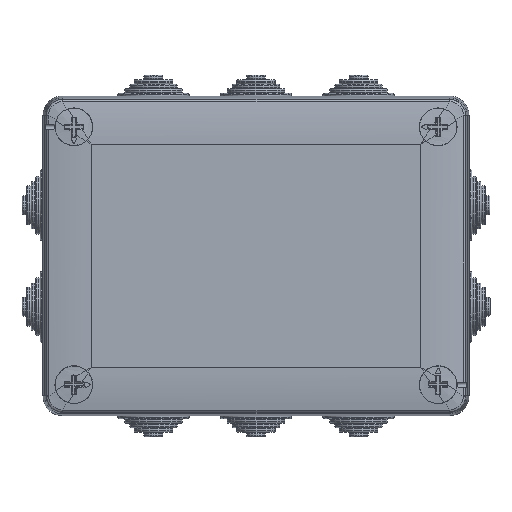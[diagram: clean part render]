
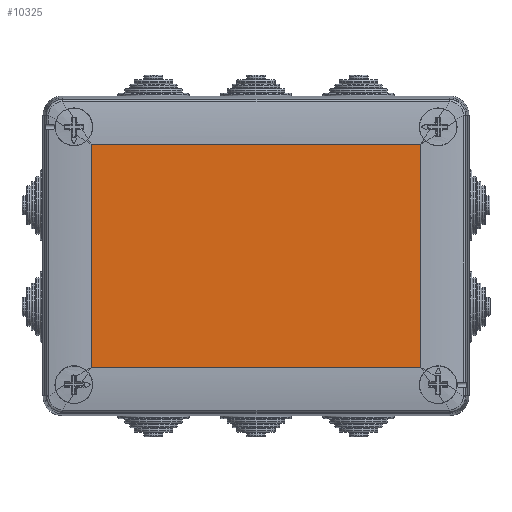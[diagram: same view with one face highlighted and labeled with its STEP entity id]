
A CAD part, top view. The second image highlights one B-rep face of the part: STEP entity #10325.
In plain terms, the highlighted planar face has unit normal (0, 0, 1).
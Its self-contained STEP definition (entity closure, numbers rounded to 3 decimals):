
#1082=LINE('',#51383,#3232);
#1083=LINE('',#51386,#3233);
#1084=LINE('',#51388,#3234);
#1085=LINE('',#51390,#3235);
#3232=VECTOR('',#39685,1.);
#3233=VECTOR('',#39686,1.);
#3234=VECTOR('',#39687,1.);
#3235=VECTOR('',#39688,1.);
#6241=PLANE('',#34011);
#10325=ADVANCED_FACE('',(#12015),#6241,.T.);
#12015=FACE_OUTER_BOUND('',#14059,.T.);
#14059=EDGE_LOOP('',(#18578,#18579,#18580,#18581));
#18578=ORIENTED_EDGE('',*,*,#29162,.F.);
#18579=ORIENTED_EDGE('',*,*,#29163,.F.);
#18580=ORIENTED_EDGE('',*,*,#29164,.F.);
#18581=ORIENTED_EDGE('',*,*,#29165,.F.);
#25712=VERTEX_POINT('',#51384);
#25713=VERTEX_POINT('',#51385);
#25714=VERTEX_POINT('',#51387);
#25715=VERTEX_POINT('',#51389);
#29162=EDGE_CURVE('',#25712,#25713,#1082,.T.);
#29163=EDGE_CURVE('',#25714,#25712,#1083,.T.);
#29164=EDGE_CURVE('',#25715,#25714,#1084,.T.);
#29165=EDGE_CURVE('',#25713,#25715,#1085,.T.);
#34011=AXIS2_PLACEMENT_3D('',#51391,#39689,#39690);
#39685=DIRECTION('',(0.,-1.,0.));
#39686=DIRECTION('',(1.,0.,0.));
#39687=DIRECTION('',(0.,1.,0.));
#39688=DIRECTION('',(-1.,0.,0.));
#39689=DIRECTION('',(0.,0.,1.));
#39690=DIRECTION('',(-1.,0.,0.));
#51383=CARTESIAN_POINT('',(61.9,41.9,5.3));
#51384=CARTESIAN_POINT('',(61.9,41.9,5.3));
#51385=CARTESIAN_POINT('',(61.9,-41.9,5.3));
#51386=CARTESIAN_POINT('',(-61.9,41.9,5.3));
#51387=CARTESIAN_POINT('',(-61.9,41.9,5.3));
#51388=CARTESIAN_POINT('',(-61.9,-41.9,5.3));
#51389=CARTESIAN_POINT('',(-61.9,-41.9,5.3));
#51390=CARTESIAN_POINT('',(61.9,-41.9,5.3));
#51391=CARTESIAN_POINT('',(-96.,-72.,5.3));
